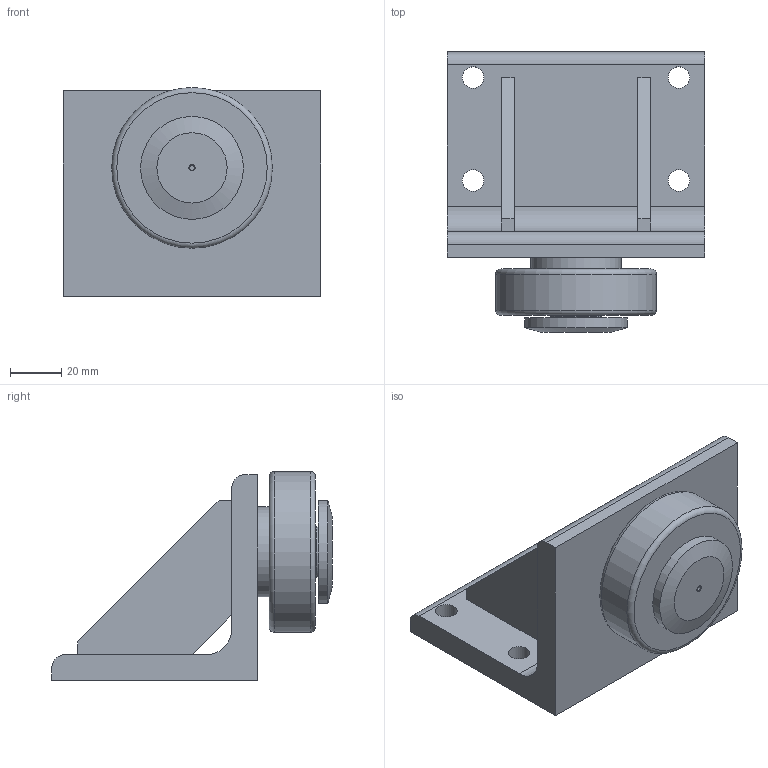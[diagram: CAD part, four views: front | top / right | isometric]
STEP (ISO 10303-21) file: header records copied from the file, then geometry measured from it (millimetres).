
FILE_DESCRIPTION(/* description */ ('-','CAx-IF Rec.Pracs.---Representation and Presentation of Product Manufacturing Information (PMI)---4.0---2014-10-13'),/* implementation_level */ '2;1');
FILE_NAME(/* name */ 'c:\temp\56833204-b8cf-4e54-b2ed-4a1f173e62fb\2caf7208-7f5d-4acb-a267-3ec265bccc31.stp',/* time_stamp */ '2020-04-01T16:04:09+02:00',/* author */ ('-'),/* organization */ ('NTI CADcenter A/S'),/* preprocessor_version */ 'ST-DEVELOPER v18',/* originating_system */ 'Autodesk Inventor 2020',/* authorisation */ '-');
FILE_SCHEMA (('AP242_MANAGED_MODEL_BASED_3D_ENGINEERING_MIM_LF { 1 0 10303 442 1 1 4 }'));
Length unit declared in the file: millimetre
Products named in the file (1): AS 060.0360 BW1200_Kontur
Bounding box: 100 x 109 x 81.25 mm (x, y, z)
Volume: 232671.6 mm3; surface area: 53568.5 mm2
Topology: 1 solids, 1 shells, 46 faces, 123 edges, 86 vertices
Faces by surface type: plane 27, cylinder 13, cone 4, torus 2
Full cylindrical faces by diameter (mm): 2 x1, 6.647 x1, 8.376 x4, 20 x1, 35 x1, 40 x1, 62.5 x1
Entity records: 1540 total; most frequent: DIRECTION 269, CARTESIAN_POINT 256, ORIENTED_EDGE 246, EDGE_CURVE 123, AXIS2_PLACEMENT_3D 99, VERTEX_POINT 86, LINE 71, VECTOR 71
